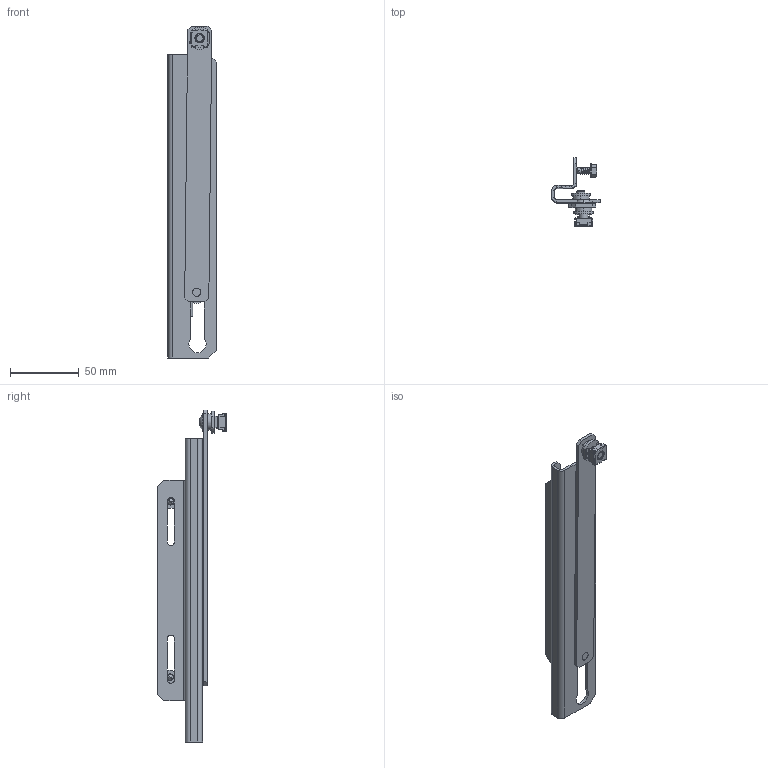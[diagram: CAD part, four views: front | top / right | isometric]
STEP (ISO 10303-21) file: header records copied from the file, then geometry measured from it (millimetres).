
FILE_DESCRIPTION (( 'STEP AP214' ), '1' );
FILE_NAME ('SD Äâåðíîé îãðàíè÷èòåëü v2.STEP', '2026-04-30T09:18:18', ( '' ), ( '' ), 'SwSTEP 2.0', 'SolidWorks 2022', '' );
FILE_SCHEMA (( 'AUTOMOTIVE_DESIGN' ));
Length unit declared in the file: millimetre
Products named in the file (9): SD 00.011 Держатель v1231231_SD 00.011 Держатель v2; SD 01.000СБ Упор v2_SD 01.000СБ Упор v2; Винт оц. с фланцем М6х16 ISO 7380 ULF_Винт оц. с фланцем М6х16 ISO 7380 ULF; Винт специальный самонарезающий оц. 4,9x11; Гайка закладная квадратная оц. М6 1,7-2,7; SD Дверной ограничитель v2; Шпилька запрессовочная М6-HCS-12ST; SD 01.001 Упор v2 изм 1_SD 01.002 Упор v2; SD 00.001 v3 Гайка-втулка специальная
Assembly tree (10 placements, depth 3):
  SD Дверной ограничитель v2
    SD 01.000СБ Упор v2_SD 01.000СБ Упор v2
      SD 01.001 Упор v2 изм 1_SD 01.002 Упор v2
      Шпилька запрессовочная М6-HCS-12ST
    SD 00.011 Держатель v1231231_SD 00.011 Держатель v2
    SD 00.001 v3 Гайка-втулка специальная  x2
    Винт специальный самонарезающий оц. 4,9x11  x2
    Винт оц. с фланцем М6х16 ISO 7380 ULF_Винт оц. с фланцем М6х16 ISO 7380 ULF
    Гайка закладная квадратная оц. М6 1,7-2,7
Bounding box: 35 x 49.76 x 240.82 mm (x, y, z)
Volume: 38284.4 mm3; surface area: 40984.1 mm2
Topology: 10 solids, 10 shells, 425 faces, 1009 edges, 609 vertices
Faces by surface type: plane 260, cylinder 109, cone 42, bspline 8, torus 4, sphere 2
Entity records: 10846 total; most frequent: CARTESIAN_POINT 2316, DIRECTION 1681, ORIENTED_EDGE 1626, EDGE_CURVE 813, LINE 575, VECTOR 575, AXIS2_PLACEMENT_3D 553, VERTEX_POINT 491
